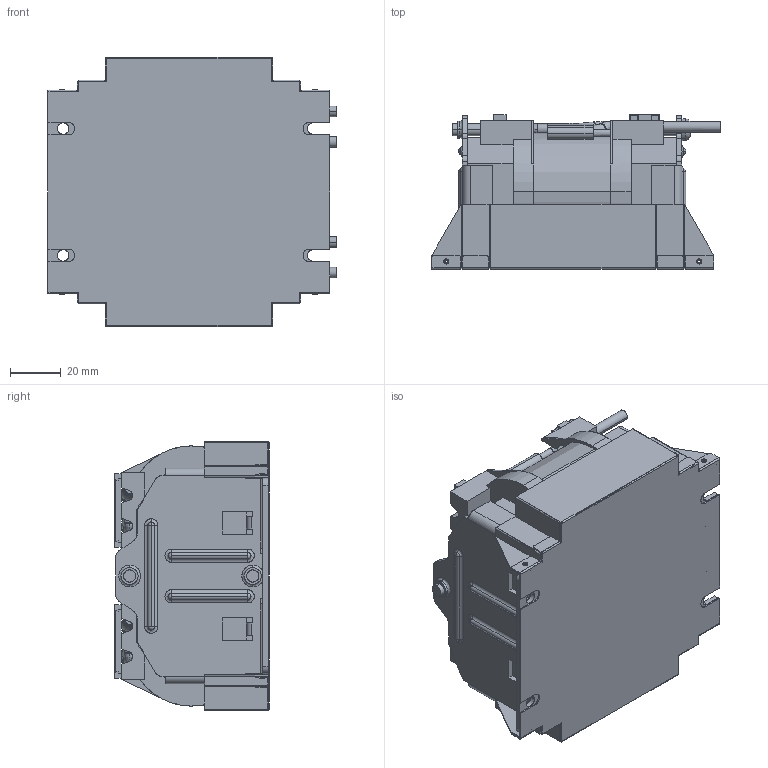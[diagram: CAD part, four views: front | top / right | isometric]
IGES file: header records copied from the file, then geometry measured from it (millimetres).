
Start section: SolidWorks IGES file using analytic representation for surfaces
Global section: file name: 35H\\10.106.230.1\R&D File\05_COMP\02_Mechanical\10_Others\PV_RT 81\网络用3D模型\半灌封模型\4KW_S_ACL\SF12225B-SM00DS20R(M-4KW_ACL-S.).IGS; native system: SolidWorks 2009; preprocessor: SolidWorks 2009; author: Administrator; date: 120508.164423; units: millimetre
Bounding box: 113.5 x 60.9 x 106 mm (x, y, z)
Surface area: 157090.1 mm2 (no closed solid volume)
Topology: 0 solids, 0 shells, 1157 faces, 9293 edges, 9270 vertices
Faces by surface type: bspline 765, revolution 392
